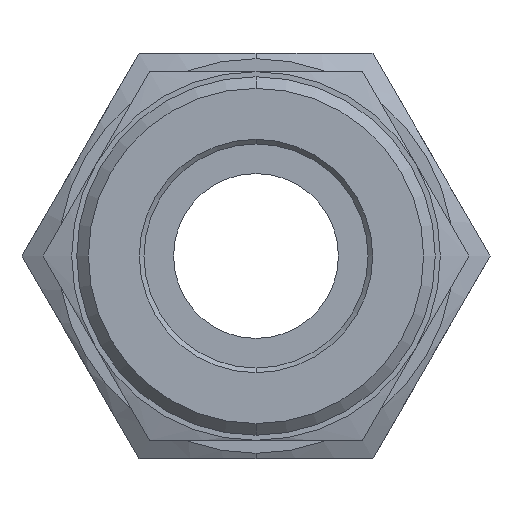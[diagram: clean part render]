
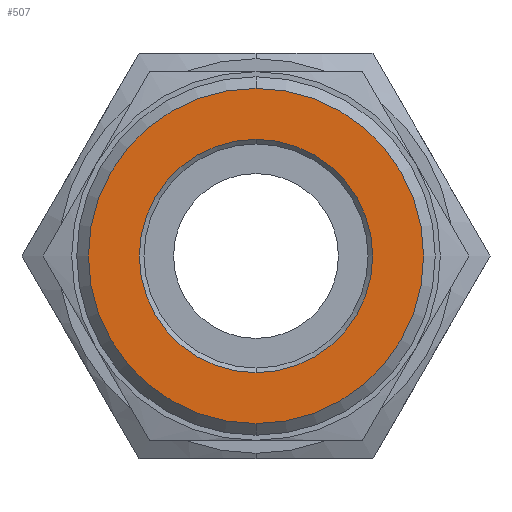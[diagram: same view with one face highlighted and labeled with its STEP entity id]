
A CAD part, left-side view. The second image highlights one B-rep face of the part: STEP entity #507.
In plain terms, the highlighted planar face has unit normal (-1, 0, 0).
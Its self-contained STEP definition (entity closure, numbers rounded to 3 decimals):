
#93 = CARTESIAN_POINT ( 'NONE',  ( -11.9, 0., 0. ) ) ;
#207 = EDGE_CURVE ( 'NONE', #208, #366, #786, .T. ) ;
#208 = VERTEX_POINT ( 'NONE', #781 ) ;
#335 = EDGE_CURVE ( 'NONE', #336, #353, #1022, .T. ) ;
#336 = VERTEX_POINT ( 'NONE', #1012 ) ;
#353 = VERTEX_POINT ( 'NONE', #1169 ) ;
#366 = VERTEX_POINT ( 'NONE', #1147 ) ;
#410 = ORIENTED_EDGE ( 'NONE', *, *, #335, .T. ) ;
#506 = EDGE_CURVE ( 'NONE', #366, #208, #1284, .T. ) ;
#507 = ADVANCED_FACE ( 'NONE', ( #1275, #1274 ), #1273, .T. ) ;
#508 = EDGE_LOOP ( 'NONE', ( #509, #510 ) ) ;
#509 = ORIENTED_EDGE ( 'NONE', *, *, #207, .T. ) ;
#510 = ORIENTED_EDGE ( 'NONE', *, *, #506, .T. ) ;
#511 = EDGE_LOOP ( 'NONE', ( #524, #410 ) ) ;
#524 = ORIENTED_EDGE ( 'NONE', *, *, #822, .T. ) ;
#781 = CARTESIAN_POINT ( 'NONE',  ( -11.9, 0., 5.025 ) ) ;
#782 = DIRECTION ( 'NONE',  ( 0., 0., 1. ) ) ;
#783 = DIRECTION ( 'NONE',  ( 1., 0., 0. ) ) ;
#784 = CARTESIAN_POINT ( 'NONE',  ( -11.9, 0., 0. ) ) ;
#785 = AXIS2_PLACEMENT_3D ( 'NONE', #784, #783, #782 ) ;
#786 = CIRCLE ( 'NONE', #785, 5.025 ) ;
#822 = EDGE_CURVE ( 'NONE', #353, #336, #1656, .T. ) ;
#1012 = CARTESIAN_POINT ( 'NONE',  ( -11.9, 0., 7.22 ) ) ;
#1013 = DIRECTION ( 'NONE',  ( 0., 0., 1. ) ) ;
#1014 = DIRECTION ( 'NONE',  ( -1., 0., 0. ) ) ;
#1015 = CARTESIAN_POINT ( 'NONE',  ( -11.9, 0., 0. ) ) ;
#1016 = AXIS2_PLACEMENT_3D ( 'NONE', #1015, #1014, #1013 ) ;
#1022 = CIRCLE ( 'NONE', #1016, 7.22 ) ;
#1147 = CARTESIAN_POINT ( 'NONE',  ( -11.9, 0., -5.025 ) ) ;
#1169 = CARTESIAN_POINT ( 'NONE',  ( -11.9, 0., -7.22 ) ) ;
#1268 = DIRECTION ( 'NONE',  ( 0., 0., 1. ) ) ;
#1269 = DIRECTION ( 'NONE',  ( -1., 0., 0. ) ) ;
#1270 = AXIS2_PLACEMENT_3D ( 'NONE', #1272, #1269, #1268 ) ;
#1272 = CARTESIAN_POINT ( 'NONE',  ( -11.9, 0., 0. ) ) ;
#1273 = PLANE ( 'NONE',  #1270 ) ;
#1274 = FACE_OUTER_BOUND ( 'NONE', #511, .T. ) ;
#1275 = FACE_BOUND ( 'NONE', #508, .T. ) ;
#1276 = DIRECTION ( 'NONE',  ( 0., 0., 1. ) ) ;
#1277 = DIRECTION ( 'NONE',  ( 1., 0., 0. ) ) ;
#1278 = CARTESIAN_POINT ( 'NONE',  ( -11.9, 0., 0. ) ) ;
#1279 = AXIS2_PLACEMENT_3D ( 'NONE', #1278, #1277, #1276 ) ;
#1284 = CIRCLE ( 'NONE', #1279, 5.025 ) ;
#1653 = DIRECTION ( 'NONE',  ( 0., 0., 1. ) ) ;
#1654 = DIRECTION ( 'NONE',  ( -1., 0., 0. ) ) ;
#1655 = AXIS2_PLACEMENT_3D ( 'NONE', #93, #1654, #1653 ) ;
#1656 = CIRCLE ( 'NONE', #1655, 7.22 ) ;
